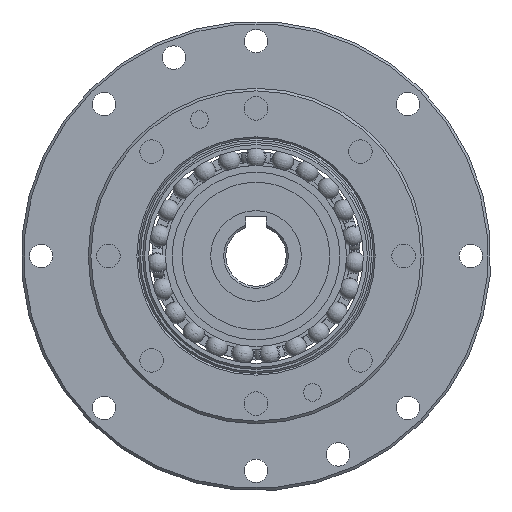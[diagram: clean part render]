
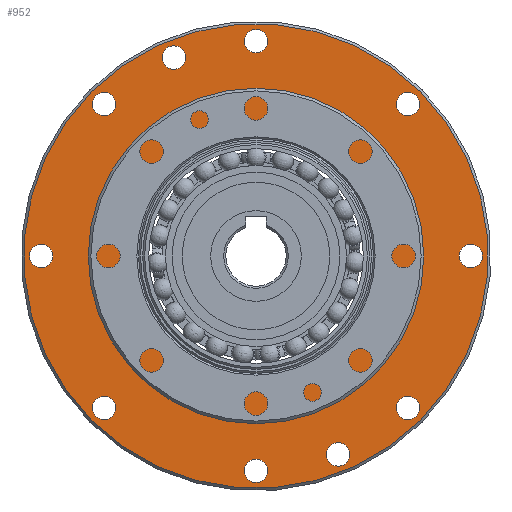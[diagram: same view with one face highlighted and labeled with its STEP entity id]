
A CAD part, left-side view. The second image highlights one B-rep face of the part: STEP entity #952.
In plain terms, the highlighted planar face has unit normal (-1, 0, 0).
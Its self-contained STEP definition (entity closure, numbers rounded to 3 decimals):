
#952=ADVANCED_FACE('',(#1297,#1298,#1299,#1300,#1301,#1302,#1303,#1304,
#1305,#1306,#1307,#1308),#1191,.T.);
#1191=PLANE('',#4277);
#1297=FACE_BOUND('',#1534,.T.);
#1298=FACE_BOUND('',#1535,.T.);
#1299=FACE_BOUND('',#1536,.T.);
#1300=FACE_BOUND('',#1537,.T.);
#1301=FACE_BOUND('',#1538,.T.);
#1302=FACE_BOUND('',#1539,.T.);
#1303=FACE_BOUND('',#1540,.T.);
#1304=FACE_BOUND('',#1541,.T.);
#1305=FACE_BOUND('',#1542,.T.);
#1306=FACE_BOUND('',#1543,.T.);
#1307=FACE_BOUND('',#1544,.T.);
#1308=FACE_BOUND('',#1545,.T.);
#1534=EDGE_LOOP('',(#1892));
#1535=EDGE_LOOP('',(#1893));
#1536=EDGE_LOOP('',(#1894));
#1537=EDGE_LOOP('',(#1895));
#1538=EDGE_LOOP('',(#1896));
#1539=EDGE_LOOP('',(#1897));
#1540=EDGE_LOOP('',(#1898));
#1541=EDGE_LOOP('',(#1899));
#1542=EDGE_LOOP('',(#1900));
#1543=EDGE_LOOP('',(#1901));
#1544=EDGE_LOOP('',(#1902));
#1545=EDGE_LOOP('',(#1903));
#1892=ORIENTED_EDGE('',*,*,#3380,.T.);
#1893=ORIENTED_EDGE('',*,*,#3352,.F.);
#1894=ORIENTED_EDGE('',*,*,#3354,.F.);
#1895=ORIENTED_EDGE('',*,*,#3356,.F.);
#1896=ORIENTED_EDGE('',*,*,#3358,.F.);
#1897=ORIENTED_EDGE('',*,*,#3360,.F.);
#1898=ORIENTED_EDGE('',*,*,#3362,.F.);
#1899=ORIENTED_EDGE('',*,*,#3364,.F.);
#1900=ORIENTED_EDGE('',*,*,#3366,.F.);
#1901=ORIENTED_EDGE('',*,*,#3368,.F.);
#1902=ORIENTED_EDGE('',*,*,#3370,.F.);
#1903=ORIENTED_EDGE('',*,*,#3372,.T.);
#2936=VERTEX_POINT('',#5795);
#2938=VERTEX_POINT('',#5800);
#2940=VERTEX_POINT('',#5805);
#2942=VERTEX_POINT('',#5810);
#2944=VERTEX_POINT('',#5815);
#2946=VERTEX_POINT('',#5820);
#2948=VERTEX_POINT('',#5825);
#2950=VERTEX_POINT('',#5830);
#2952=VERTEX_POINT('',#5835);
#2954=VERTEX_POINT('',#5840);
#2956=VERTEX_POINT('',#5845);
#2964=VERTEX_POINT('',#5865);
#3352=EDGE_CURVE('',#2936,#2936,#3901,.T.);
#3354=EDGE_CURVE('',#2938,#2938,#3903,.T.);
#3356=EDGE_CURVE('',#2940,#2940,#3905,.T.);
#3358=EDGE_CURVE('',#2942,#2942,#3907,.T.);
#3360=EDGE_CURVE('',#2944,#2944,#3909,.T.);
#3362=EDGE_CURVE('',#2946,#2946,#3911,.T.);
#3364=EDGE_CURVE('',#2948,#2948,#3913,.T.);
#3366=EDGE_CURVE('',#2950,#2950,#3915,.T.);
#3368=EDGE_CURVE('',#2952,#2952,#3917,.T.);
#3370=EDGE_CURVE('',#2954,#2954,#3919,.T.);
#3372=EDGE_CURVE('',#2956,#2956,#3921,.T.);
#3380=EDGE_CURVE('',#2964,#2964,#3929,.T.);
#3901=CIRCLE('',#4233,1.75);
#3903=CIRCLE('',#4236,1.75);
#3905=CIRCLE('',#4239,1.75);
#3907=CIRCLE('',#4242,1.75);
#3909=CIRCLE('',#4245,1.75);
#3911=CIRCLE('',#4248,1.75);
#3913=CIRCLE('',#4251,1.75);
#3915=CIRCLE('',#4254,1.75);
#3917=CIRCLE('',#4257,1.75);
#3919=CIRCLE('',#4260,1.75);
#3921=CIRCLE('',#4263,34.6);
#3929=CIRCLE('',#4275,18.013);
#4233=AXIS2_PLACEMENT_3D('',#5794,#4741,#4742);
#4236=AXIS2_PLACEMENT_3D('',#5799,#4747,#4748);
#4239=AXIS2_PLACEMENT_3D('',#5804,#4753,#4754);
#4242=AXIS2_PLACEMENT_3D('',#5809,#4759,#4760);
#4245=AXIS2_PLACEMENT_3D('',#5814,#4765,#4766);
#4248=AXIS2_PLACEMENT_3D('',#5819,#4771,#4772);
#4251=AXIS2_PLACEMENT_3D('',#5824,#4777,#4778);
#4254=AXIS2_PLACEMENT_3D('',#5829,#4783,#4784);
#4257=AXIS2_PLACEMENT_3D('',#5834,#4789,#4790);
#4260=AXIS2_PLACEMENT_3D('',#5839,#4795,#4796);
#4263=AXIS2_PLACEMENT_3D('',#5844,#4801,#4802);
#4275=AXIS2_PLACEMENT_3D('',#5864,#4825,#4826);
#4277=AXIS2_PLACEMENT_3D('',#5867,#4829,#4830);
#4741=DIRECTION('',(-1.,0.,0.));
#4742=DIRECTION('',(0.,-0.707,-0.707));
#4747=DIRECTION('',(-1.,0.,0.));
#4748=DIRECTION('',(0.,-0.707,-0.707));
#4753=DIRECTION('',(-1.,0.,0.));
#4754=DIRECTION('',(0.,-0.707,-0.707));
#4759=DIRECTION('',(-1.,0.,0.));
#4760=DIRECTION('',(0.,-0.707,-0.707));
#4765=DIRECTION('',(-1.,0.,0.));
#4766=DIRECTION('',(0.,-0.707,-0.707));
#4771=DIRECTION('',(-1.,0.,0.));
#4772=DIRECTION('',(0.,-0.707,-0.707));
#4777=DIRECTION('',(-1.,0.,0.));
#4778=DIRECTION('',(0.,-0.707,-0.707));
#4783=DIRECTION('',(-1.,0.,0.));
#4784=DIRECTION('',(0.,-0.707,-0.707));
#4789=DIRECTION('',(-1.,0.,0.));
#4790=DIRECTION('',(0.,-0.707,-0.707));
#4795=DIRECTION('',(-1.,0.,0.));
#4796=DIRECTION('',(0.,-0.707,-0.707));
#4801=DIRECTION('',(-1.,0.,0.));
#4802=DIRECTION('',(0.,-0.707,-0.707));
#4825=DIRECTION('',(1.,0.,0.));
#4826=DIRECTION('',(0.,0.,-1.));
#4829=DIRECTION('',(-1.,0.,0.));
#4830=DIRECTION('',(0.,-0.707,-0.707));
#5794=CARTESIAN_POINT('',(21.3,-12.246,-29.564));
#5795=CARTESIAN_POINT('',(21.3,-13.483,-30.802));
#5799=CARTESIAN_POINT('',(21.3,12.246,29.564));
#5800=CARTESIAN_POINT('',(21.3,11.008,28.327));
#5804=CARTESIAN_POINT('',(21.3,-32.,0.));
#5805=CARTESIAN_POINT('',(21.3,-33.237,-1.237));
#5809=CARTESIAN_POINT('',(21.3,-22.627,-22.627));
#5810=CARTESIAN_POINT('',(21.3,-23.865,-23.865));
#5814=CARTESIAN_POINT('',(21.3,0.,-32.));
#5815=CARTESIAN_POINT('',(21.3,-1.237,-33.237));
#5819=CARTESIAN_POINT('',(21.3,22.627,-22.627));
#5820=CARTESIAN_POINT('',(21.3,21.39,-23.865));
#5824=CARTESIAN_POINT('',(21.3,32.,0.));
#5825=CARTESIAN_POINT('',(21.3,30.763,-1.237));
#5829=CARTESIAN_POINT('',(21.3,22.627,22.627));
#5830=CARTESIAN_POINT('',(21.3,21.39,21.39));
#5834=CARTESIAN_POINT('',(21.3,0.,32.));
#5835=CARTESIAN_POINT('',(21.3,-1.237,30.763));
#5839=CARTESIAN_POINT('',(21.3,-22.627,22.627));
#5840=CARTESIAN_POINT('',(21.3,-23.865,21.39));
#5844=CARTESIAN_POINT('',(21.3,0.,0.));
#5845=CARTESIAN_POINT('',(21.3,-24.466,-24.466));
#5864=CARTESIAN_POINT('',(21.3,0.,0.));
#5865=CARTESIAN_POINT('',(21.3,0.,-18.014));
#5867=CARTESIAN_POINT('',(21.3,-24.749,24.749));
